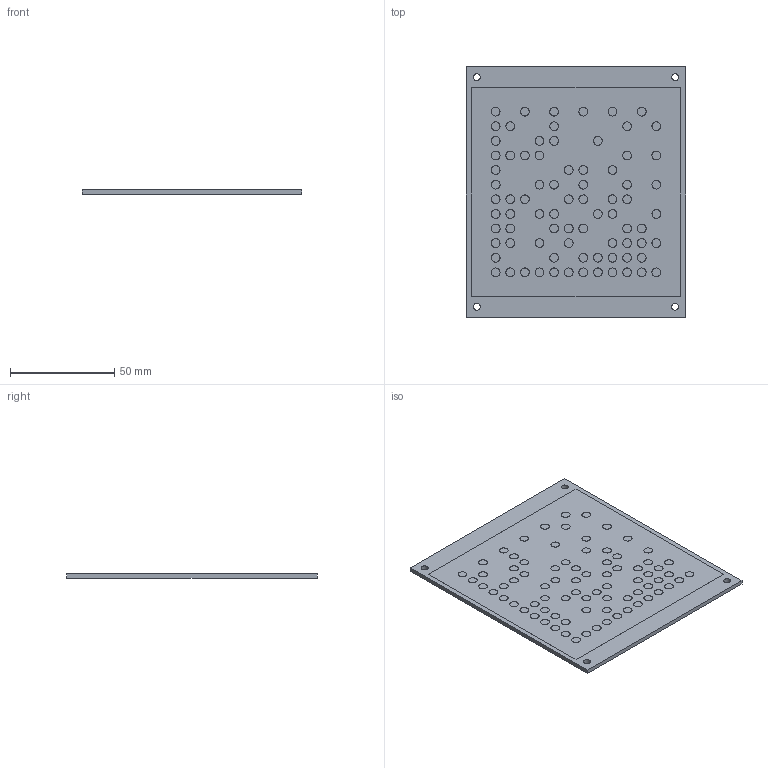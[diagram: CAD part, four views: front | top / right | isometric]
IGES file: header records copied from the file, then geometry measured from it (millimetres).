
Global section: file name: 153-13672_ZTM 100-D2-RF-4x3.3_NEU; native system: Autodesk Inventor 2021; preprocessor: unknown; author: ss; date: 20210225.101906; units: millimetre
Bounding box: 105 x 120 x 2 mm (x, y, z)
Volume: 25020.5 mm3; surface area: 26128.8 mm2
Topology: 1 solids, 1 shells, 173 faces, 415 edges, 324 vertices
Faces by surface type: bspline 173
